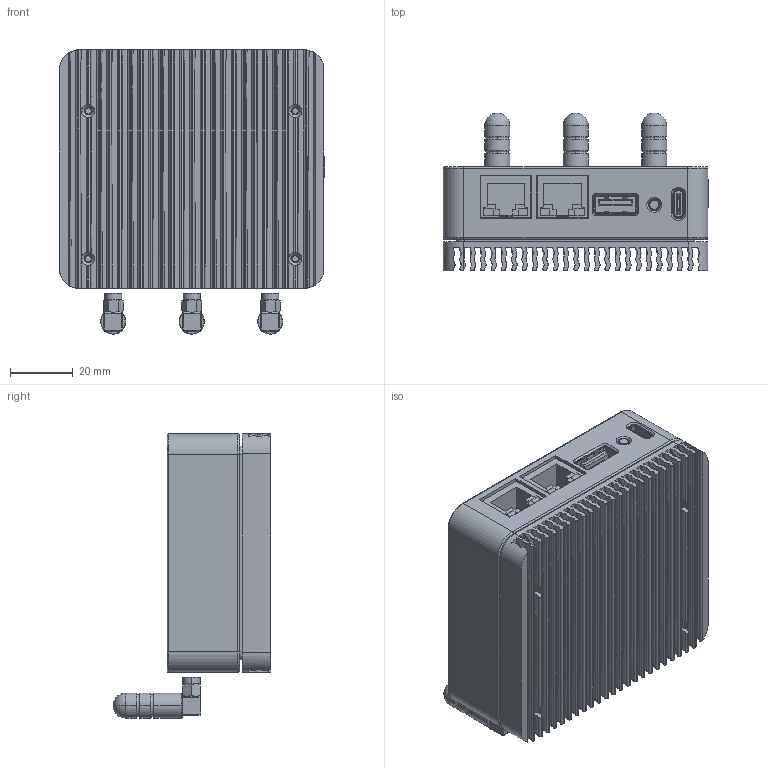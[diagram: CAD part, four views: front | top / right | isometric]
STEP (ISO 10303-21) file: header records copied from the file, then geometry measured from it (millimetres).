
FILE_DESCRIPTION(('FreeCAD Model'),'2;1');
FILE_NAME('Open CASCADE Shape Model','2023-02-01T11:14:11',('Author'),( ''),'Open CASCADE STEP processor 7.4','FreeCAD','Unknown');
FILE_SCHEMA(('AUTOMOTIVE_DESIGN { 1 0 10303 214 1 1 1 1 }'));
Length unit declared in the file: millimetre
Products named in the file (13): RADXA_E25; PCBA; PCB_SOM; Button; RJ45_1; USB_TYPE_C; USB_A; SDCard; SIMCard; Cover; LightPipe; ANT1; Heatsink
Assembly tree (15 placements, depth 3):
  RADXA_E25
    PCBA
      PCB_SOM
      Button
      RJ45_1  x2
      USB_TYPE_C
      USB_A
      SDCard
      SIMCard
    Cover
    LightPipe
    ANT1  x3
    Heatsink
Bounding box: 84.5 x 50.3 x 90.6 mm (x, y, z)
Volume: 96177.1 mm3; surface area: 103347.3 mm2
Topology: 15 solids, 15 shells, 2258 faces, 6965 edges, 7266 vertices
Faces by surface type: plane 1468, cylinder 580, cone 74, extrusion 56, torus 50, sphere 18, bspline 12
Entity records: 166026 total; most frequent: CARTESIAN_POINT 45739, DIRECTION 21898, VECTOR 14625, LINE 14569, ORIENTED_EDGE 11382, PCURVE 11382, DEFINITIONAL_REPRESENTATION 11382, EDGE_CURVE 5691
